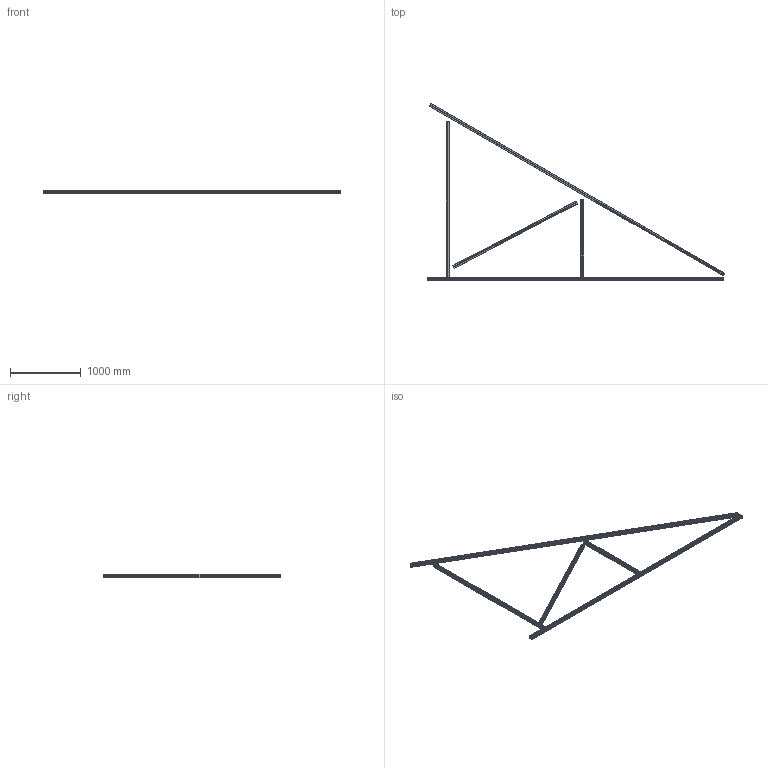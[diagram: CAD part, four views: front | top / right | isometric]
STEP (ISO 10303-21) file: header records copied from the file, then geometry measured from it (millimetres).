
FILE_DESCRIPTION (( 'STEP AP203' ), '1' );
FILE_NAME ('084.106.702.STEP', '2013-01-24T12:51:34', ( 'Alusic' ), ( 'Alusic' ), 'SwSTEP 2.0', 'SolidWorks 2011', '' );
FILE_SCHEMA (( 'CONFIG_CONTROL_DESIGN' ));
Length unit declared in the file: millimetre
Products named in the file (1): 084.106.702
Bounding box: 4212.5 x 2502.33 x 45 mm (x, y, z)
Volume: 8002288.1 mm3; surface area: 8041883.1 mm2
Topology: 5 solids, 5 shells, 771 faces, 2265 edges, 1502 vertices
Faces by surface type: plane 408, cylinder 363
Entity records: 25968 total; most frequent: CARTESIAN_POINT 4793, ORIENTED_EDGE 4530, DIRECTION 4411, EDGE_CURVE 2265, LINE 1547, VECTOR 1547, VERTEX_POINT 1502, AXIS2_PLACEMENT_3D 1432
